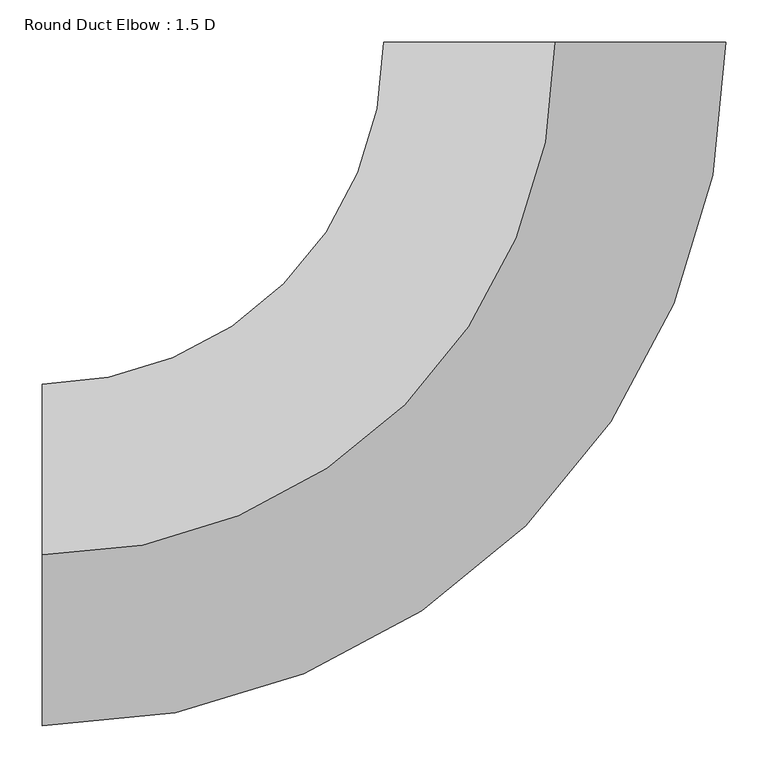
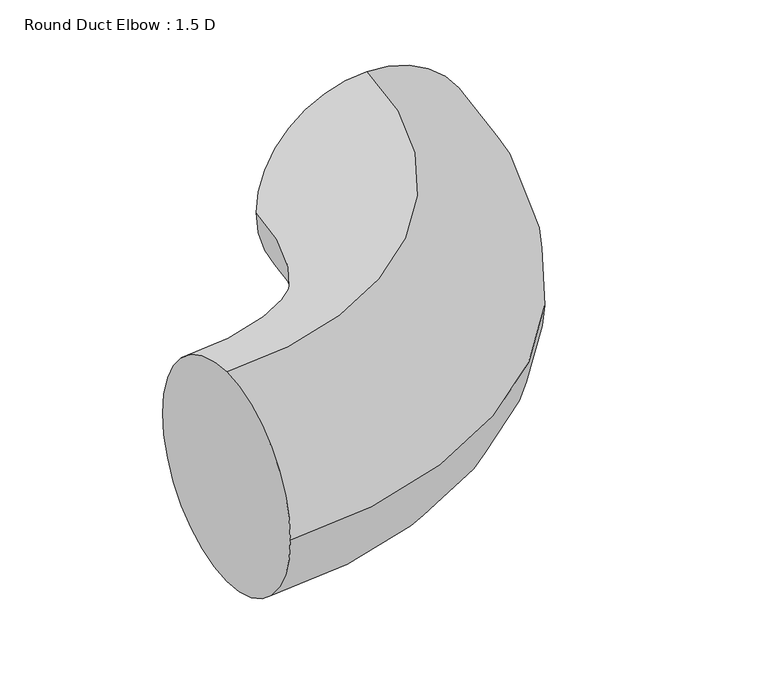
"""IFC4 building model written with IfcOpenShell, lengths in millimetres: duct fitting geometry, Round Duct Elbow : 1.5 D."""

from ifc_helpers import new_model, si_unit, point, frame, origin, place, context, project, spatial, circle_curve, ellipse_curve, trimmed, source, transform, mapped, element, save
from ifc_brep_helpers import plane_surface, revolved_surface, advanced_brep


def round_duct_elbow_1_5_d_4d61f244(model_context):
    return source(origin(), model_context, "Body", "AdvancedBrep", [
        advanced_brep(
        [(-609.6, 0.0, 203.2), (-609.6, 203.2, 0.0), (-609.6, 0.0, -203.2), (-609.6, -203.2, 0.0), (0.0, 609.6, 203.2), (203.2, 609.6, 0.0), (0.0, 609.6, -203.2), (-203.2, 609.6, 0.0)],
        [
            (0, 1, circle_curve(frame((-609.6, 0.0, 0.0), z_axis=(-1.0, 0.0, 0.0), x_axis=(0.0, 1.0, 0.0)), 203.2)),
            (1, 2, circle_curve(frame((-609.6, 0.0, 0.0), z_axis=(-1.0, 0.0, 0.0), x_axis=(0.0, 1.0, 0.0)), 203.2)),
            (2, 3, circle_curve(frame((-609.6, 0.0, 0.0), z_axis=(-1.0, 0.0, 0.0), x_axis=(0.0, 1.0, 0.0)), 203.2)),
            (3, 0, circle_curve(frame((-609.6, 0.0, 0.0), z_axis=(-1.0, 0.0, 0.0), x_axis=(0.0, 1.0, 0.0)), 203.2)),
            (4, 5, circle_curve(frame((0.0, 609.6, 0.0), z_axis=(0.0, 1.0, 0.0), x_axis=(-1.0, 0.0, 0.0)), 203.2)),
            (5, 6, circle_curve(frame((0.0, 609.6, 0.0), z_axis=(0.0, 1.0, 0.0), x_axis=(-1.0, 0.0, 0.0)), 203.2)),
            (6, 7, circle_curve(frame((0.0, 609.6, 0.0), z_axis=(0.0, 1.0, 0.0), x_axis=(-1.0, 0.0, 0.0)), 203.2)),
            (7, 4, circle_curve(frame((0.0, 609.6, 0.0), z_axis=(0.0, 1.0, 0.0), x_axis=(-1.0, 0.0, 0.0)), 203.2)),
            (7, 1, circle_curve(frame((-609.6, 609.6, 0.0), z_axis=(0.0, 0.0, -1.0), x_axis=(0.0, -1.0, 0.0)), 406.4)),
            (0, 4, circle_curve(frame((-609.6, 609.6, 203.2), z_axis=(0.0, 0.0, 1.0), x_axis=(0.0, -1.0, 0.0)), 609.6)),
            (6, 2, circle_curve(frame((-609.6, 609.6, -203.2), z_axis=(0.0, 0.0, -1.0), x_axis=(0.0, -1.0, 0.0)), 609.6)),
            (5, 3, circle_curve(frame((-609.6, 609.6, 0.0), z_axis=(0.0, 0.0, -1.0), x_axis=(0.0, -1.0, 0.0)), 812.8)),
        ],
        [
            plane_surface(frame((-609.6, 0.0, 0.0), z_axis=(-1.0, 0.0, 0.0), x_axis=(0.0, 0.0, 1.0))),
            plane_surface(frame((0.0, 609.6, 0.0), z_axis=(0.0, 1.0, 0.0), x_axis=(0.0, 0.0, 1.0))),
            revolved_surface(trimmed(ellipse_curve(frame((-609.6, 0.0, 0.0), z_axis=(-1.0, 0.0, 0.0), x_axis=(0.0, 1.0, 0.0)), 203.2, 203.2), [point((-609.6, 0.0, 203.2))], [point((-609.6, 203.2, 0.0))], True, "CARTESIAN"), (-609.6, 609.6, 0.0), (0.0, 0.0, 1.0)),
            revolved_surface(trimmed(ellipse_curve(frame((-609.6, 0.0, 0.0), z_axis=(-1.0, 0.0, 0.0), x_axis=(0.0, 1.0, 0.0)), 203.2, 203.2), [point((-609.6, 203.2, 0.0))], [point((-609.6, 0.0, -203.2))], True, "CARTESIAN"), (-609.6, 609.6, 0.0), (0.0, 0.0, 1.0)),
            revolved_surface(trimmed(ellipse_curve(frame((-609.6, 0.0, 0.0), z_axis=(-1.0, 0.0, 0.0), x_axis=(0.0, 1.0, 0.0)), 203.2, 203.2), [point((-609.6, 0.0, -203.2))], [point((-609.6, -203.2, 0.0))], True, "CARTESIAN"), (-609.6, 609.6, 0.0), (0.0, 0.0, 1.0)),
            revolved_surface(trimmed(ellipse_curve(frame((-609.6, 0.0, 0.0), z_axis=(-1.0, 0.0, 0.0), x_axis=(0.0, 1.0, 0.0)), 203.2, 203.2), [point((-609.6, -203.2, 0.0))], [point((-609.6, 0.0, 203.2))], True, "CARTESIAN"), (-609.6, 609.6, 0.0), (0.0, 0.0, 1.0)),
        ],
        [
            (0, [[1, 2, 3, 4]]),
            (1, [[5, 6, 7, 8]]),
            (2, [[9, -1, 10, -8]]),
            (3, [[11, -2, -9, -7]]),
            (4, [[12, -3, -11, -6]]),
            (5, [[-10, -4, -12, -5]]),
        ],
    ),
        advanced_brep(
        [(-609.6, 0.0, 203.2), (-609.6, 203.2, 0.0), (-609.6, 0.0, -203.2), (-609.6, -203.2, 0.0), (0.0, 609.6, 203.2), (203.2, 609.6, 0.0), (0.0, 609.6, -203.2), (-203.2, 609.6, 0.0)],
        [
            (0, 1, circle_curve(frame((-609.6, 0.0, 0.0), z_axis=(-1.0, 0.0, 0.0), x_axis=(0.0, 1.0, 0.0)), 203.2)),
            (1, 2, circle_curve(frame((-609.6, 0.0, 0.0), z_axis=(-1.0, 0.0, 0.0), x_axis=(0.0, 1.0, 0.0)), 203.2)),
            (2, 3, circle_curve(frame((-609.6, 0.0, 0.0), z_axis=(-1.0, 0.0, 0.0), x_axis=(0.0, 1.0, 0.0)), 203.2)),
            (3, 0, circle_curve(frame((-609.6, 0.0, 0.0), z_axis=(-1.0, 0.0, 0.0), x_axis=(0.0, 1.0, 0.0)), 203.2)),
            (4, 5, circle_curve(frame((0.0, 609.6, 0.0), z_axis=(0.0, 1.0, 0.0), x_axis=(-1.0, 0.0, 0.0)), 203.2)),
            (5, 6, circle_curve(frame((0.0, 609.6, 0.0), z_axis=(0.0, 1.0, 0.0), x_axis=(-1.0, 0.0, 0.0)), 203.2)),
            (6, 7, circle_curve(frame((0.0, 609.6, 0.0), z_axis=(0.0, 1.0, 0.0), x_axis=(-1.0, 0.0, 0.0)), 203.2)),
            (7, 4, circle_curve(frame((0.0, 609.6, 0.0), z_axis=(0.0, 1.0, 0.0), x_axis=(-1.0, 0.0, 0.0)), 203.2)),
            (7, 1, circle_curve(frame((-609.6, 609.6, 0.0), z_axis=(0.0, 0.0, -1.0), x_axis=(0.0, -1.0, 0.0)), 406.4)),
            (0, 4, circle_curve(frame((-609.6, 609.6, 203.2), z_axis=(0.0, 0.0, 1.0), x_axis=(0.0, -1.0, 0.0)), 609.6)),
            (6, 2, circle_curve(frame((-609.6, 609.6, -203.2), z_axis=(0.0, 0.0, -1.0), x_axis=(0.0, -1.0, 0.0)), 609.6)),
            (5, 3, circle_curve(frame((-609.6, 609.6, 0.0), z_axis=(0.0, 0.0, -1.0), x_axis=(0.0, -1.0, 0.0)), 812.8)),
        ],
        [
            plane_surface(frame((-609.6, 0.0, 0.0), z_axis=(-1.0, 0.0, 0.0), x_axis=(0.0, 0.0, 1.0))),
            plane_surface(frame((0.0, 609.6, 0.0), z_axis=(0.0, 1.0, 0.0), x_axis=(0.0, 0.0, 1.0))),
            revolved_surface(trimmed(ellipse_curve(frame((-609.6, 0.0, 0.0), z_axis=(-1.0, 0.0, 0.0), x_axis=(0.0, 1.0, 0.0)), 203.2, 203.2), [point((-609.6, 0.0, 203.2))], [point((-609.6, 203.2, 0.0))], True, "CARTESIAN"), (-609.6, 609.6, 0.0), (0.0, 0.0, 1.0)),
            revolved_surface(trimmed(ellipse_curve(frame((-609.6, 0.0, 0.0), z_axis=(-1.0, 0.0, 0.0), x_axis=(0.0, 1.0, 0.0)), 203.2, 203.2), [point((-609.6, 203.2, 0.0))], [point((-609.6, 0.0, -203.2))], True, "CARTESIAN"), (-609.6, 609.6, 0.0), (0.0, 0.0, 1.0)),
            revolved_surface(trimmed(ellipse_curve(frame((-609.6, 0.0, 0.0), z_axis=(-1.0, 0.0, 0.0), x_axis=(0.0, 1.0, 0.0)), 203.2, 203.2), [point((-609.6, 0.0, -203.2))], [point((-609.6, -203.2, 0.0))], True, "CARTESIAN"), (-609.6, 609.6, 0.0), (0.0, 0.0, 1.0)),
            revolved_surface(trimmed(ellipse_curve(frame((-609.6, 0.0, 0.0), z_axis=(-1.0, 0.0, 0.0), x_axis=(0.0, 1.0, 0.0)), 203.2, 203.2), [point((-609.6, -203.2, 0.0))], [point((-609.6, 0.0, 203.2))], True, "CARTESIAN"), (-609.6, 609.6, 0.0), (0.0, 0.0, 1.0)),
        ],
        [
            (0, [[1, 2, 3, 4]]),
            (1, [[5, 6, 7, 8]]),
            (2, [[9, -1, 10, -8]]),
            (3, [[11, -2, -9, -7]]),
            (4, [[12, -3, -11, -6]]),
            (5, [[-10, -4, -12, -5]]),
        ],
    ),
        advanced_brep(
        [(-609.6, 0.0, 203.2), (-609.6, 203.2, 0.0), (-609.6, 0.0, -203.2), (-609.6, -203.2, 0.0), (0.0, 609.6, 203.2), (203.2, 609.6, 0.0), (0.0, 609.6, -203.2), (-203.2, 609.6, 0.0)],
        [
            (0, 1, circle_curve(frame((-609.6, 0.0, 0.0), z_axis=(-1.0, 0.0, 0.0), x_axis=(0.0, 1.0, 0.0)), 203.2)),
            (1, 2, circle_curve(frame((-609.6, 0.0, 0.0), z_axis=(-1.0, 0.0, 0.0), x_axis=(0.0, 1.0, 0.0)), 203.2)),
            (2, 3, circle_curve(frame((-609.6, 0.0, 0.0), z_axis=(-1.0, 0.0, 0.0), x_axis=(0.0, 1.0, 0.0)), 203.2)),
            (3, 0, circle_curve(frame((-609.6, 0.0, 0.0), z_axis=(-1.0, 0.0, 0.0), x_axis=(0.0, 1.0, 0.0)), 203.2)),
            (4, 5, circle_curve(frame((0.0, 609.6, 0.0), z_axis=(0.0, 1.0, 0.0), x_axis=(-1.0, 0.0, 0.0)), 203.2)),
            (5, 6, circle_curve(frame((0.0, 609.6, 0.0), z_axis=(0.0, 1.0, 0.0), x_axis=(-1.0, 0.0, 0.0)), 203.2)),
            (6, 7, circle_curve(frame((0.0, 609.6, 0.0), z_axis=(0.0, 1.0, 0.0), x_axis=(-1.0, 0.0, 0.0)), 203.2)),
            (7, 4, circle_curve(frame((0.0, 609.6, 0.0), z_axis=(0.0, 1.0, 0.0), x_axis=(-1.0, 0.0, 0.0)), 203.2)),
            (7, 1, circle_curve(frame((-609.6, 609.6, 0.0), z_axis=(0.0, 0.0, -1.0), x_axis=(0.0, -1.0, 0.0)), 406.4)),
            (0, 4, circle_curve(frame((-609.6, 609.6, 203.2), z_axis=(0.0, 0.0, 1.0), x_axis=(0.0, -1.0, 0.0)), 609.6)),
            (6, 2, circle_curve(frame((-609.6, 609.6, -203.2), z_axis=(0.0, 0.0, -1.0), x_axis=(0.0, -1.0, 0.0)), 609.6)),
            (5, 3, circle_curve(frame((-609.6, 609.6, 0.0), z_axis=(0.0, 0.0, -1.0), x_axis=(0.0, -1.0, 0.0)), 812.8)),
        ],
        [
            plane_surface(frame((-609.6, 0.0, 0.0), z_axis=(-1.0, 0.0, 0.0), x_axis=(0.0, 0.0, 1.0))),
            plane_surface(frame((0.0, 609.6, 0.0), z_axis=(0.0, 1.0, 0.0), x_axis=(0.0, 0.0, 1.0))),
            revolved_surface(trimmed(ellipse_curve(frame((-609.6, 0.0, 0.0), z_axis=(-1.0, 0.0, 0.0), x_axis=(0.0, 1.0, 0.0)), 203.2, 203.2), [point((-609.6, 0.0, 203.2))], [point((-609.6, 203.2, 0.0))], True, "CARTESIAN"), (-609.6, 609.6, 0.0), (0.0, 0.0, 1.0)),
            revolved_surface(trimmed(ellipse_curve(frame((-609.6, 0.0, 0.0), z_axis=(-1.0, 0.0, 0.0), x_axis=(0.0, 1.0, 0.0)), 203.2, 203.2), [point((-609.6, 203.2, 0.0))], [point((-609.6, 0.0, -203.2))], True, "CARTESIAN"), (-609.6, 609.6, 0.0), (0.0, 0.0, 1.0)),
            revolved_surface(trimmed(ellipse_curve(frame((-609.6, 0.0, 0.0), z_axis=(-1.0, 0.0, 0.0), x_axis=(0.0, 1.0, 0.0)), 203.2, 203.2), [point((-609.6, 0.0, -203.2))], [point((-609.6, -203.2, 0.0))], True, "CARTESIAN"), (-609.6, 609.6, 0.0), (0.0, 0.0, 1.0)),
            revolved_surface(trimmed(ellipse_curve(frame((-609.6, 0.0, 0.0), z_axis=(-1.0, 0.0, 0.0), x_axis=(0.0, 1.0, 0.0)), 203.2, 203.2), [point((-609.6, -203.2, 0.0))], [point((-609.6, 0.0, 203.2))], True, "CARTESIAN"), (-609.6, 609.6, 0.0), (0.0, 0.0, 1.0)),
        ],
        [
            (0, [[1, 2, 3, 4]]),
            (1, [[5, 6, 7, 8]]),
            (2, [[9, -1, 10, -8]]),
            (3, [[11, -2, -9, -7]]),
            (4, [[12, -3, -11, -6]]),
            (5, [[-10, -4, -12, -5]]),
        ],
    ),
    ])


if __name__ == "__main__":
    model = new_model("IFC4")
    model_context = context("Model", 3, world=origin())
    ifc_project = project(units=[si_unit("LENGTHUNIT", "METRE", prefix="MILLI")], contexts=[model_context])
    site = spatial("IfcSite", under=ifc_project)
    building = spatial("IfcBuilding", under=site)
    placement = place(None, origin())
    round_duct_elbow_1_5_d_shape = round_duct_elbow_1_5_d_4d61f244(model_context)
    element("IfcDuctFitting", 1, ObjectType="Round Duct Elbow : 1.5 D", at=placement, inside=building, context=model_context, shape_type="MappedRepresentation", body=[
        mapped(round_duct_elbow_1_5_d_shape, transform((0.0, 0.0, 0.0), x_axis=(1.0, 0.0, 0.0), y_axis=(0.0, 1.0, 0.0), z_axis=(0.0, 0.0, 1.0))),
    ])
    save(model, "model.ifc")
